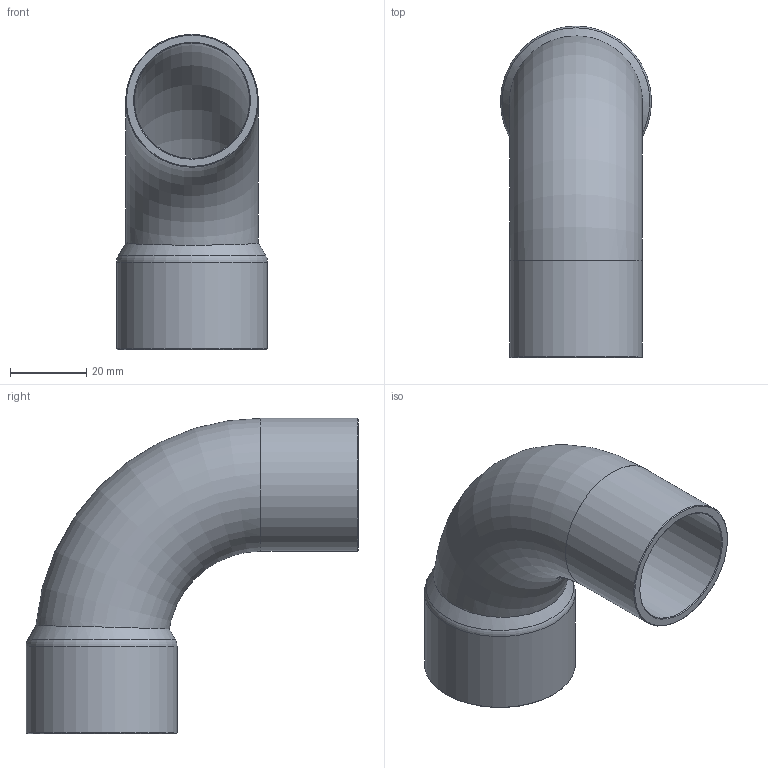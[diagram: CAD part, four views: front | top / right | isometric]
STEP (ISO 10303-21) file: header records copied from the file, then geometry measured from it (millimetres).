
FILE_DESCRIPTION((''),'2;1');
FILE_NAME('G:\SANHA-Ternat\Technik\Management\Bouwmaten + markeringen\z-maattekeningen 3D\29000s\29001A138_3d.stp','2017-07-26T10:15:08',('vdvijverd'),(''),'Autodesk Inventor 2009','Autodesk Inventor 2009','');
FILE_SCHEMA(('AUTOMOTIVE_DESIGN { 1 0 10303 214 1 1 1 1 }'));
Length unit declared in the file: millimetre
Products named in the file (1): 29001A138_3d
Bounding box: 39.7 x 87.25 x 82.86 mm (x, y, z)
Volume: 28028.8 mm3; surface area: 24885.8 mm2
Topology: 1 solids, 1 shells, 17 faces, 34 edges, 20 vertices
Faces by surface type: cone 6, cylinder 4, plane 3, torus 3, bspline 1
Full cylindrical faces by diameter (mm): 30.32 x1, 34.875 x1, 35.105 x1, 39.705 x1
Entity records: 480 total; most frequent: CARTESIAN_POINT 168, DIRECTION 64, ORIENTED_EDGE 34, EDGE_LOOP 34, AXIS2_PLACEMENT_3D 32, VERTEX_POINT 17, EDGE_CURVE 17, FACE_OUTER_BOUND 17
